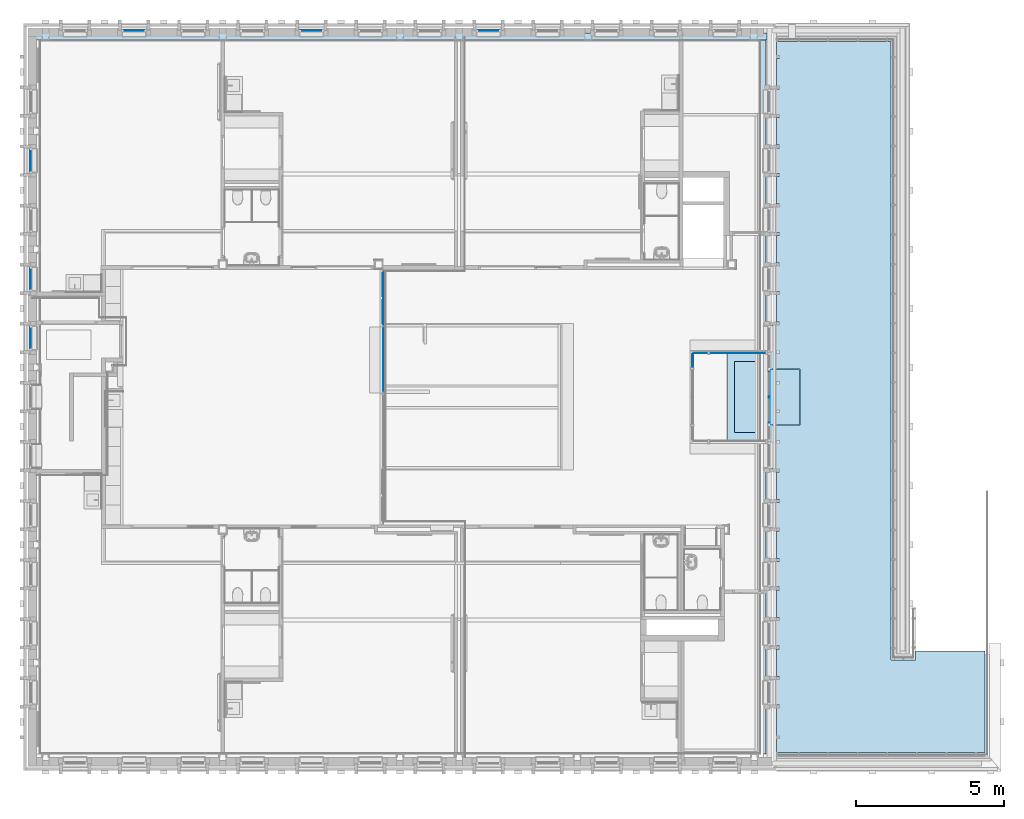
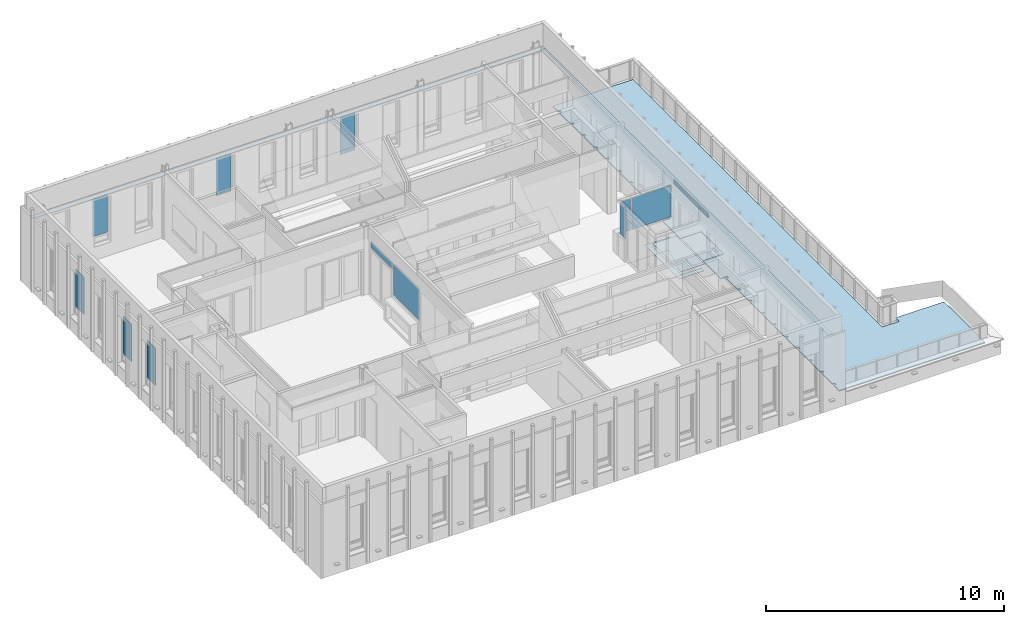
# One storey, part 20 of 118: 12 plates, 6 slabs, 11 elements without a shape of their own.
"""IFC2X3 building model written with IfcOpenShell, lengths in millimetres."""

from ifc_helpers import new_model, entity, si_unit, converted_unit, derived_unit, direction, frame, frame_2d, origin, origin_2d_with_axis, place, context, subcontext, project, spatial, polyline, rectangle, outline, extrude, source, transform, mapped, material, layer, layer_set, layer_usage, type_object, type_shapes, element, aggregate, save


model = new_model("IFC2X3")

# Units and contexts
model_context = context("Model", 3, precision=0.01, world=origin(), true_north=direction((6.123031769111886e-17, 1.0)))
plan_context = context("Plan", 3, precision=0.01, world=origin(), true_north=direction((6.123031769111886e-17, 1.0)))
body_context = subcontext(model_context, "Body", "Model", "MODEL_VIEW")
ifc_project = project(units=[si_unit("LENGTHUNIT", "METRE", prefix="MILLI"), si_unit("AREAUNIT", "SQUARE_METRE"), si_unit("VOLUMEUNIT", "CUBIC_METRE"), converted_unit("PLANEANGLEUNIT", "DEGREE", entity("IfcRatioMeasure", 0.017453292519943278), si_unit("PLANEANGLEUNIT", "RADIAN"), dimensions=[0, 0, 0, 0, 0, 0, 0]), si_unit("MASSUNIT", "GRAM", prefix="KILO"), derived_unit("MASSDENSITYUNIT", [(si_unit("MASSUNIT", "GRAM", prefix="KILO"), 1), (si_unit("LENGTHUNIT", "METRE"), -3)]), derived_unit("IONCONCENTRATIONUNIT", [(si_unit("MASSUNIT", "GRAM", prefix="KILO"), 1), (si_unit("LENGTHUNIT", "METRE"), -3)]), derived_unit("MOMENTOFINERTIAUNIT", [(si_unit("LENGTHUNIT", "METRE"), 4)]), si_unit("TIMEUNIT", "SECOND"), si_unit("FREQUENCYUNIT", "HERTZ"), si_unit("THERMODYNAMICTEMPERATUREUNIT", "DEGREE_CELSIUS"), derived_unit("THERMALTRANSMITTANCEUNIT", [(si_unit("MASSUNIT", "GRAM", prefix="KILO"), 1), (si_unit("THERMODYNAMICTEMPERATUREUNIT", "KELVIN"), -1), (si_unit("TIMEUNIT", "SECOND"), -3)]), derived_unit("THERMALCONDUCTANCEUNIT", [(si_unit("MASSUNIT", "GRAM", prefix="KILO"), 1), (si_unit("THERMODYNAMICTEMPERATUREUNIT", "KELVIN"), -1), (si_unit("TIMEUNIT", "SECOND"), -3), (si_unit("LENGTHUNIT", "METRE"), 1)]), derived_unit("VOLUMETRICFLOWRATEUNIT", [(si_unit("LENGTHUNIT", "METRE"), 3), (si_unit("TIMEUNIT", "SECOND"), -1)]), derived_unit("MASSFLOWRATEUNIT", [(si_unit("MASSUNIT", "GRAM", prefix="KILO"), 1), (si_unit("TIMEUNIT", "SECOND"), -1)]), derived_unit("ROTATIONALFREQUENCYUNIT", [(si_unit("TIMEUNIT", "SECOND"), -1)]), si_unit("ELECTRICCURRENTUNIT", "AMPERE"), si_unit("ELECTRICVOLTAGEUNIT", "VOLT"), si_unit("POWERUNIT", "WATT"), si_unit("FORCEUNIT", "NEWTON", prefix="KILO"), si_unit("ILLUMINANCEUNIT", "LUX"), si_unit("LUMINOUSFLUXUNIT", "LUMEN"), si_unit("LUMINOUSINTENSITYUNIT", "CANDELA"), derived_unit("USERDEFINED", [(si_unit("MASSUNIT", "GRAM", prefix="KILO"), -1), (si_unit("LENGTHUNIT", "METRE"), -2), (si_unit("TIMEUNIT", "SECOND"), 3), (si_unit("LUMINOUSFLUXUNIT", "LUMEN"), 1)]), derived_unit("USERDEFINED", [(si_unit("MASSUNIT", "GRAM", prefix="KILO"), 1), (si_unit("TIMEUNIT", "SECOND"), -3), (si_unit("LENGTHUNIT", "METRE"), 3), (si_unit("ELECTRICCURRENTUNIT", "AMPERE"), -2)]), derived_unit("SOUNDPOWERUNIT", [(si_unit("MASSUNIT", "GRAM", prefix="KILO"), 1), (si_unit("TIMEUNIT", "SECOND"), -3), (si_unit("LENGTHUNIT", "METRE"), 2)]), derived_unit("SOUNDPRESSUREUNIT", [(si_unit("MASSUNIT", "GRAM", prefix="KILO"), 1), (si_unit("LENGTHUNIT", "METRE"), -1), (si_unit("TIMEUNIT", "SECOND"), -2)]), derived_unit("LINEARVELOCITYUNIT", [(si_unit("LENGTHUNIT", "METRE"), 1), (si_unit("TIMEUNIT", "SECOND"), -1)]), si_unit("PRESSUREUNIT", "PASCAL"), derived_unit("USERDEFINED", [(si_unit("MASSUNIT", "GRAM", prefix="KILO"), 1), (si_unit("LENGTHUNIT", "METRE"), -2), (si_unit("TIMEUNIT", "SECOND"), -2)]), derived_unit("LINEARFORCEUNIT", [(si_unit("MASSUNIT", "GRAM", prefix="KILO"), 1), (si_unit("TIMEUNIT", "SECOND"), -2)]), derived_unit("PLANARFORCEUNIT", [(si_unit("MASSUNIT", "GRAM", prefix="KILO"), 1), (si_unit("LENGTHUNIT", "METRE"), -1), (si_unit("TIMEUNIT", "SECOND"), -2)]), derived_unit("SPECIFICHEATCAPACITYUNIT", [(si_unit("THERMODYNAMICTEMPERATUREUNIT", "KELVIN"), -1), (si_unit("LENGTHUNIT", "METRE"), 2), (si_unit("TIMEUNIT", "SECOND"), -2)]), derived_unit("HEATINGVALUEUNIT", [(si_unit("LENGTHUNIT", "METRE"), 2), (si_unit("TIMEUNIT", "SECOND"), -2)]), derived_unit("VAPORPERMEABILITYUNIT", [(si_unit("LENGTHUNIT", "METRE"), -1), (si_unit("TIMEUNIT", "SECOND"), 1)]), derived_unit("DYNAMICVISCOSITYUNIT", [(si_unit("MASSUNIT", "GRAM", prefix="KILO"), 1), (si_unit("TIMEUNIT", "SECOND"), -1), (si_unit("LENGTHUNIT", "METRE"), -1)]), derived_unit("THERMALEXPANSIONCOEFFICIENTUNIT", [(si_unit("THERMODYNAMICTEMPERATUREUNIT", "KELVIN"), -1)]), derived_unit("MODULUSOFELASTICITYUNIT", [(si_unit("MASSUNIT", "GRAM", prefix="KILO"), 1), (si_unit("LENGTHUNIT", "METRE"), -1), (si_unit("TIMEUNIT", "SECOND"), -2)]), derived_unit("ISOTHERMALMOISTURECAPACITYUNIT", [(si_unit("LENGTHUNIT", "METRE"), 3), (si_unit("MASSUNIT", "GRAM", prefix="KILO"), -1)]), derived_unit("MOISTUREDIFFUSIVITYUNIT", [(si_unit("TIMEUNIT", "SECOND"), -1), (si_unit("LENGTHUNIT", "METRE"), 2)])], contexts=[model_context, plan_context])

# Site, building, storey
site_placement = place(None, origin())
site = spatial("IfcSite", under=ifc_project, at=site_placement, Name="Locatie", CompositionType="ELEMENT")
building_placement = place(site_placement, origin())
building = spatial("IfcBuilding", under=site, at=building_placement, Name="Bouwwerk", CompositionType="ELEMENT")
storey_placement = place(building_placement, frame((0.0, 0.0, 7800.0)))
storey = spatial("IfcBuildingStorey", under=building, at=storey_placement, Name="02 tweede verdieping", CompositionType="ELEMENT", Elevation=7800.000000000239)

# Curtain wall, plate
curtain_wall_type_1 = type_object("IfcCurtainWallType", Name="Curtain Wall:NLRS_21_CW_Ontwerpkozijn_aluminium_RT72", PredefinedType="NOTDEFINED")
curtain_wall_1_placement = place(storey_placement, frame((0.0, 0.0, -7800.0)))
curtain_wall_1 = element("IfcCurtainWall", 1, at=curtain_wall_1_placement, inside=storey, type_object=curtain_wall_type_1, Name="Curtain Wall:NLRS_21_CW_Ontwerpkozijn_aluminium_RT72", ObjectType="Curtain Wall:NLRS_21_CW_Ontwerpkozijn_aluminium_RT72")
ifc_material_1 = material(Name="ISR_Glas")
plate_type_1 = type_object("IfcPlateType", Name="System Panel:RT72_glas", PredefinedType="CURTAIN_PANEL", material=ifc_material_1)
shared_shape_1 = source(origin(), body_context, "Body", "SweptSolid", [
    extrude(rectangle(XDim=23.0, YDim=713.999999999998, at=origin_2d_with_axis()), frame((0.0, 53.5, 0.0), z_axis=(0.0, 0.0, 1.0), x_axis=(0.0, 1.0, 0.0)), (0.0, 0.0, 1.0), 1918.999999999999),
])
type_shapes(plate_type_1, [shared_shape_1])
plate_1_placement = place(curtain_wall_1_placement, frame((9847.0, 24200.0, 8876.0), z_axis=(0.0, 0.0, 1.0), x_axis=(0.0, 1.0, 0.0)))
plate_1 = element("IfcPlate", 2, at=plate_1_placement, type_object=plate_type_1, material=ifc_material_1, Name="System Panel:RT72_glas", ObjectType="System Panel:RT72_glas", context=body_context, shape_type="MappedRepresentation", body=[
    mapped(shared_shape_1, transform((0.0, 0.0, 0.0), scale=1.0)),
])
aggregate(curtain_wall_1, [plate_1])

curtain_wall_2_placement = place(storey_placement, frame((0.0, 0.0, -7800.0)))
curtain_wall_2 = element("IfcCurtainWall", 3, at=curtain_wall_2_placement, inside=storey, type_object=curtain_wall_type_1, Name="Curtain Wall:NLRS_21_CW_Ontwerpkozijn_aluminium_RT72", ObjectType="Curtain Wall:NLRS_21_CW_Ontwerpkozijn_aluminium_RT72")
plate_2_placement = place(curtain_wall_2_placement, frame((9847.0, 26200.0, 8876.0), z_axis=(0.0, 0.0, 1.0), x_axis=(0.0, 1.0, 0.0)))
plate_2 = element("IfcPlate", 4, at=plate_2_placement, type_object=plate_type_1, material=ifc_material_1, Name="System Panel:RT72_glas", ObjectType="System Panel:RT72_glas", context=body_context, shape_type="MappedRepresentation", body=[
    mapped(shared_shape_1, transform((0.0, 0.0, 0.0), scale=1.0)),
])
aggregate(curtain_wall_2, [plate_2])

curtain_wall_3_placement = place(storey_placement, frame((0.0, 0.0, -7800.0)))
curtain_wall_3 = element("IfcCurtainWall", 5, at=curtain_wall_3_placement, inside=storey, type_object=curtain_wall_type_1, Name="Curtain Wall:NLRS_21_CW_Ontwerpkozijn_aluminium_RT72", ObjectType="Curtain Wall:NLRS_21_CW_Ontwerpkozijn_aluminium_RT72")
plate_3_placement = place(curtain_wall_3_placement, frame((9847.0, 30200.0, 8876.0), z_axis=(0.0, 0.0, 1.0), x_axis=(0.0, 1.0, 0.0)))
plate_3 = element("IfcPlate", 6, at=plate_3_placement, type_object=plate_type_1, material=ifc_material_1, Name="System Panel:RT72_glas", ObjectType="System Panel:RT72_glas", context=body_context, shape_type="MappedRepresentation", body=[
    mapped(shared_shape_1, transform((0.0, 0.0, 0.0), scale=1.0)),
])
aggregate(curtain_wall_3, [plate_3])

curtain_wall_4_placement = place(storey_placement, frame((0.0, 0.0, -7800.0)))
curtain_wall_4 = element("IfcCurtainWall", 7, at=curtain_wall_4_placement, inside=storey, type_object=curtain_wall_type_1, Name="Curtain Wall:NLRS_21_CW_Ontwerpkozijn_aluminium_RT72", ObjectType="Curtain Wall:NLRS_21_CW_Ontwerpkozijn_aluminium_RT72")
plate_4_placement = place(curtain_wall_4_placement, frame((25300.0, 34553.0, 8876.0)))
plate_4 = element("IfcPlate", 8, at=plate_4_placement, type_object=plate_type_1, material=ifc_material_1, Name="System Panel:RT72_glas", ObjectType="System Panel:RT72_glas", context=body_context, shape_type="MappedRepresentation", body=[
    mapped(shared_shape_1, transform((0.0, 0.0, 0.0), scale=1.0)),
])
aggregate(curtain_wall_4, [plate_4])

curtain_wall_5_placement = place(storey_placement, frame((0.0, 0.0, -7800.0)))
curtain_wall_5 = element("IfcCurtainWall", 9, at=curtain_wall_5_placement, inside=storey, type_object=curtain_wall_type_1, Name="Curtain Wall:NLRS_21_CW_Ontwerpkozijn_aluminium_RT72", ObjectType="Curtain Wall:NLRS_21_CW_Ontwerpkozijn_aluminium_RT72")
plate_5_placement = place(curtain_wall_5_placement, frame((19300.0, 34553.0, 8876.0)))
plate_5 = element("IfcPlate", 10, at=plate_5_placement, type_object=plate_type_1, material=ifc_material_1, Name="System Panel:RT72_glas", ObjectType="System Panel:RT72_glas", context=body_context, shape_type="MappedRepresentation", body=[
    mapped(shared_shape_1, transform((0.0, 0.0, 0.0), scale=1.0)),
])
aggregate(curtain_wall_5, [plate_5])

curtain_wall_6_placement = place(storey_placement, frame((0.0, 0.0, -7800.0)))
curtain_wall_6 = element("IfcCurtainWall", 11, at=curtain_wall_6_placement, inside=storey, type_object=curtain_wall_type_1, Name="Curtain Wall:NLRS_21_CW_Ontwerpkozijn_aluminium_RT72", ObjectType="Curtain Wall:NLRS_21_CW_Ontwerpkozijn_aluminium_RT72")
plate_6_placement = place(curtain_wall_6_placement, frame((13300.0, 34553.0, 8876.0)))
plate_6 = element("IfcPlate", 12, at=plate_6_placement, type_object=plate_type_1, material=ifc_material_1, Name="System Panel:RT72_glas", ObjectType="System Panel:RT72_glas", context=body_context, shape_type="MappedRepresentation", body=[
    mapped(shared_shape_1, transform((0.0, 0.0, 0.0), scale=1.0)),
])
aggregate(curtain_wall_6, [plate_6])

curtain_wall_7_placement = place(storey_placement, frame((0.0, 0.0, -7800.0)))
curtain_wall_7 = element("IfcCurtainWall", 13, at=curtain_wall_7_placement, inside=storey, type_object=curtain_wall_type_1, Name="Curtain Wall:NLRS_21_CW_Ontwerpkozijn_aluminium_RT72", ObjectType="Curtain Wall:NLRS_21_CW_Ontwerpkozijn_aluminium_RT72")
plate_type_2 = type_object("IfcPlateType", Name="System Panel:RT72_glas", PredefinedType="CURTAIN_PANEL", material=ifc_material_1)
shared_shape_2 = source(origin(), body_context, "Body", "SweptSolid", [
    extrude(rectangle(XDim=199.999999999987, YDim=2884.4999999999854, at=frame_2d((0.0, -0.12499998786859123), x_axis=(1.0, 0.0))), frame((0.12499998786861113, 42.0, 100.0), z_axis=(0.0, 1.0, 0.0), x_axis=(0.0, 0.0, 1.0)), (0.0, 0.0, 1.0), 23.0),
])
type_shapes(plate_type_2, [shared_shape_2])
plate_7_placement = place(curtain_wall_7_placement, frame((34753.0, 22200.249999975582, 10595.0), z_axis=(0.0, 0.0, 1.0), x_axis=(0.0, -1.0, 0.0)))
plate_7 = element("IfcPlate", 14, at=plate_7_placement, type_object=plate_type_2, material=ifc_material_1, Name="System Panel:RT72_glas", ObjectType="System Panel:RT72_glas", context=body_context, shape_type="MappedRepresentation", body=[
    mapped(shared_shape_2, transform((0.0, 0.0, 0.0), scale=1.0)),
])
aggregate(curtain_wall_7, [plate_7])

# Roof, slab
ifc_material_2 = material(Name="g3_tegels_grijs_500x500")
ifc_layer_1 = layer(ifc_material_2, 50.0)
ifc_layer_set_1 = layer_set([ifc_layer_1], Name="Basic Roof:NLRS_27_RO_daktegels 500x500x50_gen_bdg")
roof_placement = place(storey_placement, frame((34830.0, 10170.0, 223.0)))
roof = element("IfcRoof", 15, at=roof_placement, inside=storey, material=ifc_layer_set_1, Name="Basic Roof:NLRS_27_RO_daktegels 500x500x50_gen_bdg", ObjectType="Basic Roof:NLRS_27_RO_daktegels 500x500x50_gen_bdg", ShapeType="NOTDEFINED")
slab_type_1 = type_object("IfcSlabType", Name="Basic Roof:NLRS_27_RO_daktegels 500x500x50_gen_bdg", PredefinedType="ROOF")
slab_1_placement = place(roof_placement, origin())
slab_1 = element("IfcSlab", 16, at=slab_1_placement, type_object=slab_type_1, material=ifc_layer_set_1, Name="Basic Roof:NLRS_27_RO_daktegels 500x500x50_gen_bdg", ObjectType="Basic Roof:NLRS_27_RO_daktegels 500x500x50_gen_bdg", PredefinedType="ROOF", context=body_context, shape_type="SweptSolid", body=[
    extrude(outline(polyline([(3637.4999999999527, -12030.0), (3637.4999999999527, -8595.0), (1287.0704824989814, -8595.0), (1287.0704824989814, -8895.0), (462.4999999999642, -8895.0), (462.4999999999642, 12030.0), (-3427.500000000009, 12030.0), (-3427.500000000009, 11568.0), (-3317.4999999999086, 11568.0), (-3317.4999999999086, 11468.0), (-3427.500000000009, 11468.0), (-3427.5000000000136, 10532.0), (-3317.4999999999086, 10532.0), (-3317.4999999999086, 10432.0), (-3427.5000000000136, 10432.0), (-3427.5000000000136, 9568.0), (-3317.4999999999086, 9568.0), (-3317.4999999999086, 9468.0), (-3427.5000000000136, 9468.0), (-3427.5000000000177, 8532.0), (-3317.4999999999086, 8532.0), (-3317.4999999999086, 8432.0), (-3427.5000000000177, 8432.0), (-3427.5000000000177, 7568.0), (-3317.4999999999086, 7568.0), (-3317.4999999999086, 7468.0), (-3427.5000000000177, 7468.0), (-3427.5000000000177, 6532.0), (-3317.4999999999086, 6532.0), (-3317.4999999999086, 6432.0), (-3427.5000000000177, 6432.0), (-3427.5000000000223, 5568.0), (-3317.4999999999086, 5568.0), (-3317.4999999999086, 5468.0), (-3427.5000000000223, 5468.0), (-3427.5000000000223, 4532.0), (-3317.4999999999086, 4532.0), (-3317.4999999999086, 4432.0), (-3427.5000000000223, 4432.0), (-3427.5000000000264, 3568.0), (-3317.4999999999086, 3568.0), (-3317.4999999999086, 3468.0), (-3427.5000000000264, 3468.0), (-3427.5000000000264, 2532.0), (-3317.4999999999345, 2532.0), (-3317.4999999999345, 2432.0), (-3637.499999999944, 2432.0), (-3637.4999999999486, 945.0), (-2632.4999999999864, 945.0), (-2632.4999999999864, -945.0), (-3637.4999999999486, -945.0), (-3637.4999999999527, -2432.0), (-3317.4999999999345, -2432.0), (-3317.4999999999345, -2532.0), (-3427.4999999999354, -2532.0), (-3427.4999999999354, -3468.0), (-3317.4999999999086, -3468.0), (-3317.4999999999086, -3568.0), (-3427.4999999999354, -3568.0), (-3427.49999999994, -4432.0), (-3317.4999999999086, -4432.0), (-3317.4999999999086, -4532.0), (-3427.49999999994, -4532.0), (-3427.49999999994, -5468.0), (-3317.4999999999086, -5468.0), (-3317.4999999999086, -5568.0), (-3427.49999999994, -5568.0), (-3427.499999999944, -6432.0), (-3317.4999999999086, -6432.0), (-3317.4999999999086, -6532.0), (-3427.499999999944, -6532.0), (-3427.499999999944, -7468.0), (-3317.4999999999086, -7468.0), (-3317.4999999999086, -7568.0), (-3427.499999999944, -7568.0), (-3427.499999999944, -8432.0), (-3317.4999999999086, -8432.0), (-3317.4999999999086, -8532.0), (-3427.499999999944, -8532.0), (-3427.4999999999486, -9468.0), (-3317.4999999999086, -9468.0), (-3317.4999999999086, -9568.0), (-3427.4999999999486, -9568.0), (-3427.4999999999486, -10432.0), (-3317.4999999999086, -10432.0), (-3317.4999999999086, -10532.0), (-3427.4999999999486, -10532.0), (-3427.4999999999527, -11468.0), (-3317.4999999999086, -11468.0), (-3317.4999999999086, -11568.0), (-3427.4999999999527, -11568.0), (-3427.4999999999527, -12030.0), (3637.4999999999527, -12030.0)])), frame((3637.4999999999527, 12030.0, 0.0)), (0.0, 0.0, 1.0), 49.99999999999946),
])
aggregate(roof, [slab_1])

# Curtain wall, plates
curtain_wall_type_2 = type_object("IfcCurtainWallType", Name="Curtain Wall:32_BDG_Jansen Economy 50", PredefinedType="NOTDEFINED")
curtain_wall_8_placement = place(storey_placement, frame((0.0, 0.0, -7800.0)))
curtain_wall_8 = element("IfcCurtainWall", 17, at=curtain_wall_8_placement, inside=storey, type_object=curtain_wall_type_2, Name="Curtain Wall:32_BDG_Jansen Economy 50", ObjectType="Curtain Wall:32_BDG_Jansen Economy 50")
plate_type_3 = type_object("IfcPlateType", Name="System Panel:glas binnen stalen kozijnen", PredefinedType="CURTAIN_PANEL", material=ifc_material_1)
shared_shape_3 = source(origin(), body_context, "Body", "SweptSolid", [
    extrude(rectangle(XDim=1629.9999999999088, YDim=2185.200000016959, at=frame_2d((-142.50000000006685, 0.0), x_axis=(1.0, 0.0))), frame((0.0, 13.549999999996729, 957.5000000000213), z_axis=(0.0, 1.0, 0.0), x_axis=(0.0, 0.0, 1.0)), (0.0, 0.0, 1.0), 5.5),
])
type_shapes(plate_type_3, [shared_shape_3])
plate_8_placement = place(curtain_wall_8_placement, frame((21717.0, 23472.436885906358, 8910.0), z_axis=(0.0, 0.0, 1.0), x_axis=(0.0, -1.0, 0.0)))
plate_8 = element("IfcPlate", 18, at=plate_8_placement, type_object=plate_type_3, material=ifc_material_1, Name="System Panel:glas binnen stalen kozijnen", ObjectType="System Panel:glas binnen stalen kozijnen", context=body_context, shape_type="MappedRepresentation", body=[
    mapped(shared_shape_3, transform((0.0, 0.0, 0.0), scale=1.0)),
])
plate_type_4 = type_object("IfcPlateType", Name="System Panel:glas binnen stalen kozijnen", PredefinedType="CURTAIN_PANEL", material=ifc_material_1)
shared_shape_4 = source(origin(), body_context, "Body", "SweptSolid", [
    extrude(rectangle(XDim=357.49999999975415, YDim=1839.9631140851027, at=frame_2d((0.0, -0.006147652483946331), x_axis=(1.0, 0.0))), frame((0.006147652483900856, 13.549999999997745, 178.74999999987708), z_axis=(0.0, 1.0, 0.0), x_axis=(0.0, 0.0, 1.0)), (0.0, 0.0, 1.0), 5.5),
])
type_shapes(plate_type_4, [shared_shape_4])
plate_9_placement = place(curtain_wall_8_placement, frame((21717.0, 25545.018442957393, 10182.500000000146), z_axis=(0.0, 0.0, 1.0), x_axis=(0.0, -1.0, 0.0)))
plate_9 = element("IfcPlate", 19, at=plate_9_placement, type_object=plate_type_4, material=ifc_material_1, Name="System Panel:glas binnen stalen kozijnen", ObjectType="System Panel:glas binnen stalen kozijnen", context=body_context, shape_type="MappedRepresentation", body=[
    mapped(shared_shape_4, transform((0.0, 0.0, 0.0), scale=1.0)),
])
aggregate(curtain_wall_8, [plate_8, plate_9])

curtain_wall_type_3 = type_object("IfcCurtainWallType", Name="Curtain Wall:32_ontwerpkozijn binnen 125*67", PredefinedType="NOTDEFINED")
curtain_wall_9_placement = place(storey_placement, frame((0.0, 0.0, -7800.0)))
curtain_wall_9 = element("IfcCurtainWall", 20, at=curtain_wall_9_placement, inside=storey, type_object=curtain_wall_type_3, Name="Curtain Wall:32_ontwerpkozijn binnen 125*67", ObjectType="Curtain Wall:32_ontwerpkozijn binnen 125*67")
plate_type_5 = type_object("IfcPlateType", Name="System Panel:glas_offset-35", PredefinedType="CURTAIN_PANEL", material=ifc_material_1)
shared_shape_5 = source(origin(), body_context, "Body", "SweptSolid", [
    extrude(rectangle(XDim=25.0, YDim=1896.8000000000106, at=origin_2d_with_axis()), frame((0.0, -41.0, 0.0), z_axis=(0.0, 0.0, 1.0), x_axis=(0.0, 1.0, 0.0)), (0.0, 0.0, 1.0), 1616.000000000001),
])
type_shapes(plate_type_5, [shared_shape_5])
plate_10_placement = place(curtain_wall_9_placement, frame((33732.40000000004, 23650.0, 8917.0), z_axis=(0.0, 0.0, 1.0), x_axis=(-1.0, 0.0, 0.0)))
plate_10 = element("IfcPlate", 21, at=plate_10_placement, type_object=plate_type_5, material=ifc_material_1, Name="System Panel:glas_offset-35", ObjectType="System Panel:glas_offset-35", context=body_context, shape_type="MappedRepresentation", body=[
    mapped(shared_shape_5, transform((0.0, 0.0, 0.0), scale=1.0)),
])
plate_type_6 = type_object("IfcPlateType", Name="System Panel:glas_offset-35", PredefinedType="CURTAIN_PANEL", material=ifc_material_1)
shared_shape_6 = source(origin(), body_context, "Body", "SweptSolid", [
    extrude(rectangle(XDim=25.0, YDim=466.99999999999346, at=origin_2d_with_axis()), frame((0.0, -41.0, 0.0), z_axis=(0.0, 0.0, 1.0), x_axis=(0.0, 1.0, 0.0)), (0.0, 0.0, 1.0), 1616.000000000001),
])
type_shapes(plate_type_6, [shared_shape_6])
plate_11_placement = place(curtain_wall_9_placement, frame((32483.50000000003, 23650.0, 8917.0), z_axis=(0.0, 0.0, 1.0), x_axis=(-1.0, 0.0, 0.0)))
plate_11 = element("IfcPlate", 22, at=plate_11_placement, type_object=plate_type_6, material=ifc_material_1, Name="System Panel:glas_offset-35", ObjectType="System Panel:glas_offset-35", context=body_context, shape_type="MappedRepresentation", body=[
    mapped(shared_shape_6, transform((0.0, 0.0, 0.0), scale=1.0)),
])
aggregate(curtain_wall_9, [plate_10, plate_11])

# Curtain wall, plate
curtain_wall_10_placement = place(storey_placement, frame((0.0, 0.0, -7800.0)))
curtain_wall_10 = element("IfcCurtainWall", 23, at=curtain_wall_10_placement, inside=storey, type_object=curtain_wall_type_3, Name="Curtain Wall:32_ontwerpkozijn binnen 125*67", ObjectType="Curtain Wall:32_ontwerpkozijn binnen 125*67")
plate_12_placement = place(curtain_wall_10_placement, frame((32250.0, 23416.49999996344, 8917.0), z_axis=(0.0, 0.0, 1.0), x_axis=(0.0, -1.0, 0.0)))
plate_12 = element("IfcPlate", 24, at=plate_12_placement, type_object=plate_type_6, material=ifc_material_1, Name="System Panel:glas_offset-35", ObjectType="System Panel:glas_offset-35", context=body_context, shape_type="MappedRepresentation", body=[
    mapped(shared_shape_6, transform((0.0, 0.0, 0.0), scale=1.0)),
])
aggregate(curtain_wall_10, [plate_12])

# Slabs
ifc_material_3 = material(Name="ISR_Vloer_afwerking_schoonloop")
ifc_layer_2 = layer(ifc_material_3, 5.0)
ifc_layer_set_2 = layer_set([ifc_layer_2], Name="Floor:43_FL_schoonloopmat_5")
ifc_layer_usage_1 = layer_usage(ifc_layer_set_2, "AXIS3", "POSITIVE", 0.0)
slab_type_2 = type_object("IfcSlabType", Name="Floor:43_FL_schoonloopmat_5", PredefinedType="FLOOR", material=ifc_layer_set_2)
slab_2_placement = place(storey_placement, origin())
element("IfcSlab", 25, at=slab_2_placement, inside=storey, type_object=slab_type_2, material=ifc_layer_usage_1, Name="Floor:43_FL_schoonloopmat_5", ObjectType="Floor:43_FL_schoonloopmat_5", PredefinedType="FLOOR", context=body_context, shape_type="SweptSolid", body=[
    extrude(outline(polyline([(-1450.0, -675.0), (1450.0, -675.0), (1450.0, 550.0), (1200.0, 550.0), (1200.0, -425.0), (-1200.0, -425.0), (-1200.0, 550.0), (-1450.0, 550.0), (-1450.0, -675.0)])), frame((34050.0, 22200.0, 144.0), z_axis=(0.0, 0.0, -1.0), x_axis=(0.0, 1.0, 0.0)), (0.0, 0.0, 1.0), 4.999999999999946),
])
slab_3_placement = place(storey_placement, origin())
element("IfcSlab", 26, at=slab_3_placement, inside=storey, type_object=slab_type_2, material=ifc_layer_usage_1, Name="Floor:43_FL_schoonloopmat_5", ObjectType="Floor:43_FL_schoonloopmat_5", PredefinedType="FLOOR", context=body_context, shape_type="SweptSolid", body=[
    extrude(rectangle(XDim=2400.0, YDim=1126.8000000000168, at=frame_2d((0.0, 2.1600499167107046e-12), x_axis=(1.0, 0.0))), frame((34188.40000000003, 22200.0, 283.0), z_axis=(0.0, 0.0, -1.0), x_axis=(0.0, 1.0, 0.0)), (0.0, 0.0, 1.0), 4.999999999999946),
])
ifc_material_4 = material(Name="h2_staal_rooster")
ifc_layer_3 = layer(ifc_material_4, 20.0)
ifc_layer_set_3 = layer_set([ifc_layer_3], Name="Floor:NLRS_23_FL_schraaprooster 20")
ifc_layer_usage_2 = layer_usage(ifc_layer_set_3, "AXIS3", "POSITIVE", 0.0)
slab_type_3 = type_object("IfcSlabType", Name="Floor:NLRS_23_FL_schraaprooster 20", PredefinedType="FLOOR", material=ifc_layer_set_3)
slab_4_placement = place(storey_placement, origin())
element("IfcSlab", 27, at=slab_4_placement, inside=storey, type_object=slab_type_3, material=ifc_layer_usage_2, Name="Floor:NLRS_23_FL_schraaprooster 20", ObjectType="Floor:NLRS_23_FL_schraaprooster 20", PredefinedType="FLOOR", context=body_context, shape_type="SweptSolid", body=[
    extrude(rectangle(XDim=1879.999999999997, YDim=999.999999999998, at=origin_2d_with_axis()), frame((35330.0, 22200.0, 273.0), z_axis=(0.0, 0.0, -1.0), x_axis=(0.0, 1.0, 0.0)), (0.0, 0.0, 1.0), 19.999999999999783),
])
ifc_material_5 = material(Name="ISR_brandwerende beplating")
ifc_layer_4 = layer(ifc_material_5, 15.0)
ifc_layer_set_4 = layer_set([ifc_layer_4], Name="Floor:43_FL_brandwerende beplating_15")
ifc_layer_usage_3 = layer_usage(ifc_layer_set_4, "AXIS3", "POSITIVE", 0.0)
slab_type_4 = type_object("IfcSlabType", Name="Floor:43_FL_brandwerende beplating_15", PredefinedType="FLOOR", material=ifc_layer_set_4)
slab_5_placement = place(storey_placement, origin())
element("IfcSlab", 28, at=slab_5_placement, inside=storey, type_object=slab_type_4, material=ifc_layer_usage_3, Name="Floor:43_FL_brandwerende beplating_15", ObjectType="Floor:43_FL_brandwerende beplating_15", PredefinedType="FLOOR", context=body_context, shape_type="SweptSolid", body=[
    extrude(rectangle(XDim=24159.92193039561, YDim=200.00000000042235, at=frame_2d((-9.094947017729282e-13, -8.662937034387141e-11), x_axis=(1.0, 0.0))), frame((34600.0, 22199.96096519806, 3310.0), z_axis=(0.0, 0.0, -1.0), x_axis=(0.0, 1.0, 0.0)), (0.0, 0.0, 1.0), 15.000000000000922),
])
slab_6_placement = place(storey_placement, frame((9880.0, 9880.0, 3255.0)))
element("IfcSlab", 29, at=slab_6_placement, inside=storey, type_object=slab_type_4, material=ifc_layer_usage_3, Name="Floor:43_FL_brandwerende beplating_15:2", ObjectType="Floor:43_FL_brandwerende beplating_15", PredefinedType="FLOOR", context=body_context, shape_type="SweptSolid", body=[
    extrude(rectangle(XDim=240.0000000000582, YDim=24840.000000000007, at=frame_2d((0.0, 12200.0), x_axis=(0.0, -1.0))), frame((12420.0, 12320.0, 15.0), z_axis=(0.0, 0.0, -1.0), x_axis=(-1.0, 0.0, 0.0)), (0.0, 0.0, 1.0), 15.000000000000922),
])

save(model, "model.ifc")
